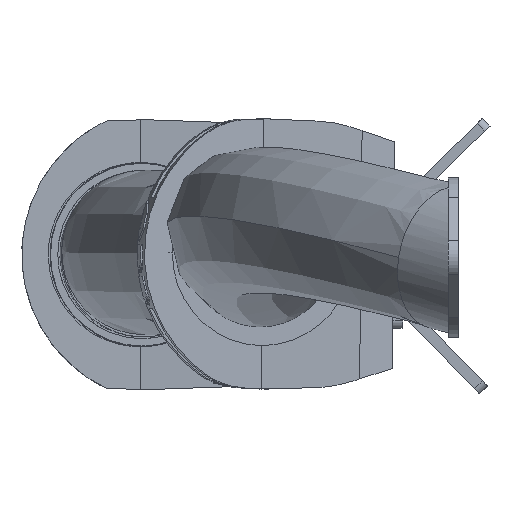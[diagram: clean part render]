
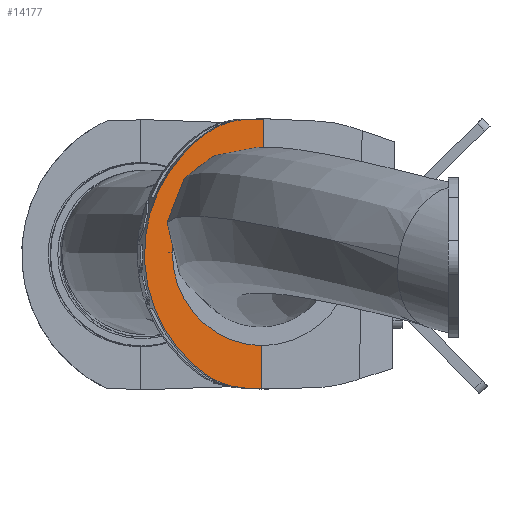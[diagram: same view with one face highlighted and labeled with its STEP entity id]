
A CAD part, left-side view. The second image highlights one B-rep face of the part: STEP entity #14177.
In plain terms, the highlighted planar face has unit normal (-0.993, -0.122, -0.001).
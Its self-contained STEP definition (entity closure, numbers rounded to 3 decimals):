
#36 = AXIS2_PLACEMENT_3D ( 'NONE', #6284, #7677, #12926 ) ;
#546 = CARTESIAN_POINT ( 'NONE',  ( 1333.567, 196.795, 1941.62 ) ) ;
#921 = CARTESIAN_POINT ( 'NONE',  ( 1330.615, 221.032, 1921.409 ) ) ;
#1054 = VERTEX_POINT ( 'NONE', #5840 ) ;
#1100 = DIRECTION ( 'NONE',  ( 0., 0.01, -1. ) ) ;
#1168 = CARTESIAN_POINT ( 'NONE',  ( 1323.69, 276.439, 2023.515 ) ) ;
#1626 = DIRECTION ( 'NONE',  ( 0.993, 0.122, 0.001 ) ) ;
#1690 = EDGE_CURVE ( 'NONE', #9033, #1054, #6408, .T. ) ;
#1783 = ORIENTED_EDGE ( 'NONE', *, *, #12914, .F. ) ;
#1823 =( BOUNDED_CURVE ( )  B_SPLINE_CURVE ( 3, ( #14162, #8886, #1168, #14513 ),
 .UNSPECIFIED., .F., .T. ) 
 B_SPLINE_CURVE_WITH_KNOTS ( ( 4, 4 ),
 ( 5.325, 7.241 ),
 .UNSPECIFIED. ) 
 CURVE ( )  GEOMETRIC_REPRESENTATION_ITEM ( )  RATIONAL_B_SPLINE_CURVE ( ( 1., 0.717, 0.717, 1. ) ) 
 REPRESENTATION_ITEM ( '' )  );
#1934 = ORIENTED_EDGE ( 'NONE', *, *, #12409, .F. ) ;
#1988 = CARTESIAN_POINT ( 'NONE',  ( 1333.567, 195.58, 2065.743 ) ) ;
#2997 = CARTESIAN_POINT ( 'NONE',  ( 1332.471, 204.504, 2065.517 ) ) ;
#3277 = DIRECTION ( 'NONE',  ( 0.122, -0.992, 0.025 ) ) ;
#3313 = CARTESIAN_POINT ( 'NONE',  ( 1333.567, 197.025, 1918.099 ) ) ;
#3344 = ORIENTED_EDGE ( 'NONE', *, *, #15141, .F. ) ;
#3346 = VECTOR ( 'NONE', #3277, 1000. ) ;
#3619 = CARTESIAN_POINT ( 'NONE',  ( 1333.567, 195.58, 2065.743 ) ) ;
#4033 = VERTEX_POINT ( 'NONE', #4052 ) ;
#4052 = CARTESIAN_POINT ( 'NONE',  ( 1332.471, 204.504, 2065.517 ) ) ;
#4220 = CARTESIAN_POINT ( 'NONE',  ( 1329.835, 226.041, 2058.47 ) ) ;
#4377 = CARTESIAN_POINT ( 'NONE',  ( 1333.567, 195.58, 2065.743 ) ) ;
#4631 = LINE ( 'NONE', #9891, #14068 ) ;
#5610 = CARTESIAN_POINT ( 'NONE',  ( 1331.519, 212.264, 2065.32 ) ) ;
#5648 = CARTESIAN_POINT ( 'NONE',  ( 1329.835, 226.041, 2058.47 ) ) ;
#5667 = CIRCLE ( 'NONE', #10921, 50.308 ) ;
#5749 = ORIENTED_EDGE ( 'NONE', *, *, #8930, .T. ) ;
#5840 = CARTESIAN_POINT ( 'NONE',  ( 1333.567, 195.81, 2042.222 ) ) ;
#5926 = VECTOR ( 'NONE', #9692, 1000. ) ;
#6284 = CARTESIAN_POINT ( 'NONE',  ( 1326.86, 249.944, 2092.451 ) ) ;
#6408 = LINE ( 'NONE', #3619, #12672 ) ;
#6532 = AXIS2_PLACEMENT_3D ( 'NONE', #10979, #16205, #9752 ) ;
#6678 =( BOUNDED_CURVE ( )  B_SPLINE_CURVE ( 3, ( #4220, #6826, #5610, #2997 ),
 .UNSPECIFIED., .F., .F. ) 
 B_SPLINE_CURVE_WITH_KNOTS ( ( 4, 4 ),
 ( 0.958, 1.536 ),
 .UNSPECIFIED. ) 
 CURVE ( )  GEOMETRIC_REPRESENTATION_ITEM ( )  RATIONAL_B_SPLINE_CURVE ( ( 1., 0.972, 0.972, 1. ) ) 
 REPRESENTATION_ITEM ( '' )  );
#6826 = CARTESIAN_POINT ( 'NONE',  ( 1330.615, 219.647, 2062.904 ) ) ;
#6895 = CARTESIAN_POINT ( 'NONE',  ( 1327.523, 245.52, 1992.403 ) ) ;
#7196 = DIRECTION ( 'NONE',  ( 0.122, -0.992, -0.01 ) ) ;
#7222 = VERTEX_POINT ( 'NONE', #7644 ) ;
#7644 = CARTESIAN_POINT ( 'NONE',  ( 1329.835, 227.338, 1925.968 ) ) ;
#7677 = DIRECTION ( 'NONE',  ( 0.993, 0.122, 0.001 ) ) ;
#8142 = VERTEX_POINT ( 'NONE', #12129 ) ;
#8323 = VERTEX_POINT ( 'NONE', #546 ) ;
#8607 = EDGE_CURVE ( 'NONE', #8323, #15454, #5667, .T. ) ;
#8692 = ORIENTED_EDGE ( 'NONE', *, *, #8817, .F. ) ;
#8817 = EDGE_CURVE ( 'NONE', #10912, #4033, #6678, .T. ) ;
#8886 = CARTESIAN_POINT ( 'NONE',  ( 1323.69, 277.042, 1961.902 ) ) ;
#8930 = EDGE_CURVE ( 'NONE', #15454, #1054, #13970, .T. ) ;
#9033 = VERTEX_POINT ( 'NONE', #4377 ) ;
#9428 = EDGE_CURVE ( 'NONE', #8142, #7222, #9649, .T. ) ;
#9513 = LINE ( 'NONE', #1988, #5926 ) ;
#9649 =( BOUNDED_CURVE ( )  B_SPLINE_CURVE ( 3, ( #10203, #10110, #921, #9938 ),
 .UNSPECIFIED., .F., .F. ) 
 B_SPLINE_CURVE_WITH_KNOTS ( ( 4, 4 ),
 ( 4.747, 5.325 ),
 .UNSPECIFIED. ) 
 CURVE ( )  GEOMETRIC_REPRESENTATION_ITEM ( )  RATIONAL_B_SPLINE_CURVE ( ( 1., 0.972, 0.972, 1. ) ) 
 REPRESENTATION_ITEM ( '' )  );
#9692 = DIRECTION ( 'NONE',  ( 0., 0.01, -1. ) ) ;
#9752 = DIRECTION ( 'NONE',  ( 0.122, -0.992, -0.01 ) ) ;
#9891 = CARTESIAN_POINT ( 'NONE',  ( 1333.75, 195.535, 1918.032 ) ) ;
#9938 = CARTESIAN_POINT ( 'NONE',  ( 1329.835, 227.338, 1925.968 ) ) ;
#10110 = CARTESIAN_POINT ( 'NONE',  ( 1331.519, 213.698, 1918.849 ) ) ;
#10203 = CARTESIAN_POINT ( 'NONE',  ( 1332.471, 205.942, 1918.5 ) ) ;
#10912 = VERTEX_POINT ( 'NONE', #5648 ) ;
#10921 = AXIS2_PLACEMENT_3D ( 'NONE', #10994, #1626, #7196 ) ;
#10979 = CARTESIAN_POINT ( 'NONE',  ( 1333.654, 195.589, 1991.914 ) ) ;
#10994 = CARTESIAN_POINT ( 'NONE',  ( 1333.654, 195.589, 1991.914 ) ) ;
#11240 = ORIENTED_EDGE ( 'NONE', *, *, #9428, .F. ) ;
#11268 = DIRECTION ( 'NONE',  ( -0.122, 0.992, 0.045 ) ) ;
#11360 = EDGE_CURVE ( 'NONE', #15642, #8142, #4631, .T. ) ;
#11547 = ORIENTED_EDGE ( 'NONE', *, *, #1690, .F. ) ;
#11715 = PLANE ( 'NONE',  #36 ) ;
#12129 = CARTESIAN_POINT ( 'NONE',  ( 1332.471, 205.942, 1918.5 ) ) ;
#12409 = EDGE_CURVE ( 'NONE', #4033, #9033, #12638, .T. ) ;
#12638 = LINE ( 'NONE', #15055, #3346 ) ;
#12672 = VECTOR ( 'NONE', #1100, 1000. ) ;
#12843 = FACE_OUTER_BOUND ( 'NONE', #14123, .T. ) ;
#12914 = EDGE_CURVE ( 'NONE', #7222, #10912, #1823, .T. ) ;
#12926 = DIRECTION ( 'NONE',  ( 0.122, -0.992, -0.01 ) ) ;
#13970 = CIRCLE ( 'NONE', #6532, 50.308 ) ;
#14068 = VECTOR ( 'NONE', #11268, 1000. ) ;
#14123 = EDGE_LOOP ( 'NONE', ( #11547, #1934, #8692, #1783, #11240, #15108, #3344, #14795, #5749 ) ) ;
#14162 = CARTESIAN_POINT ( 'NONE',  ( 1329.835, 227.338, 1925.968 ) ) ;
#14177 = ADVANCED_FACE ( 'NONE', ( #12843 ), #11715, .F. ) ;
#14513 = CARTESIAN_POINT ( 'NONE',  ( 1329.835, 226.041, 2058.47 ) ) ;
#14795 = ORIENTED_EDGE ( 'NONE', *, *, #8607, .T. ) ;
#15055 = CARTESIAN_POINT ( 'NONE',  ( 1333.75, 194.089, 2065.781 ) ) ;
#15108 = ORIENTED_EDGE ( 'NONE', *, *, #11360, .F. ) ;
#15141 = EDGE_CURVE ( 'NONE', #8323, #15642, #9513, .T. ) ;
#15454 = VERTEX_POINT ( 'NONE', #6895 ) ;
#15642 = VERTEX_POINT ( 'NONE', #3313 ) ;
#16205 = DIRECTION ( 'NONE',  ( 0.993, 0.122, 0.001 ) ) ;
